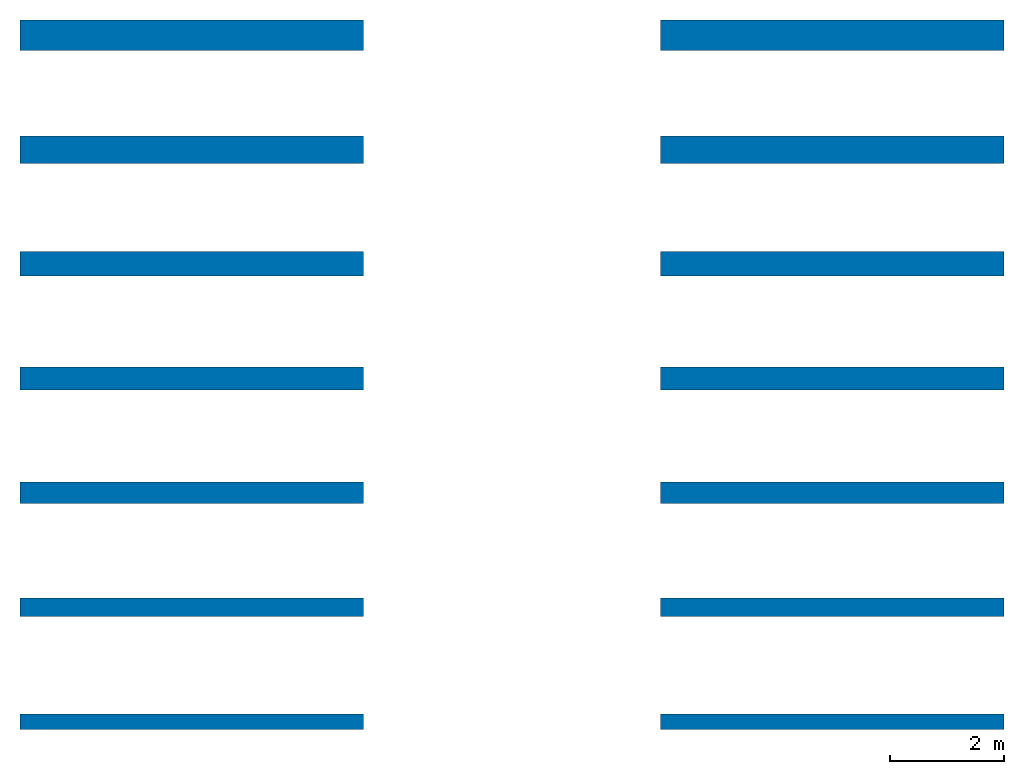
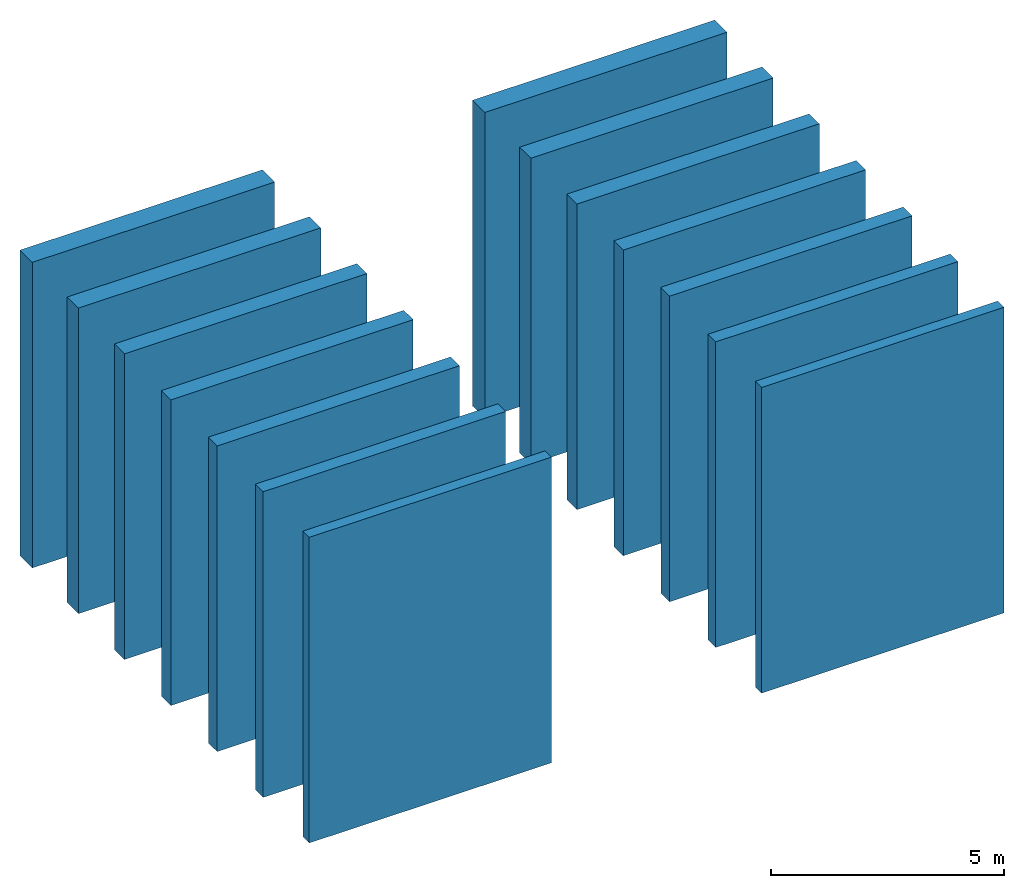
# One storey: 14 walls.
"""IFC2X3 building model written with IfcOpenShell, lengths in millimetres."""

import ifcopenshell
import ifcopenshell.guid

model = None  # the IFC model being written
_history = None  # IfcOwnerHistory: only IFC2X3 demands one
_inside = {}  # id of a spatial element -> (the spatial element, [elements in it])
_under = {}  # id of a project, library or spatial element -> (it, [spatial elements below it])
_declared = {}  # id of a project -> (the project, [libraries it declares])
_typed = {}  # id of a type object -> (the type object, [elements of that type])
_made_of = {}  # id of a material, layer set ... -> (it, [elements and type objects made of it])


def new_model(schema):
    """Start an empty IFC model of exactly this schema.

    Asked for "IFC4X3", IfcOpenShell would pick the latest addendum, in which some entities
    have other attributes; the version numbers below select the first issue.
    IFC2X3 requires an IfcOwnerHistory on every rooted entity: one is made here for all.
    """
    global model, _history
    if schema == "IFC4X3":
        model = ifcopenshell.file(schema_version=(4, 3, 0, 0))
    else:
        model = ifcopenshell.file(schema=schema)
    _inside.clear()
    _under.clear()
    _declared.clear()
    _typed.clear()
    _made_of.clear()
    _history = None
    if model.schema == "IFC2X3":
        org = make("IfcOrganization", Name="unknown")
        user = make(
            "IfcPersonAndOrganization",
            ThePerson=make("IfcPerson", FamilyName="unknown"),
            TheOrganization=org,
        )
        app = make(
            "IfcApplication",
            ApplicationDeveloper=org,
            Version="unknown",
            ApplicationFullName="unknown",
            ApplicationIdentifier="unknown",
        )
        _history = make(
            "IfcOwnerHistory",
            OwningUser=user,
            OwningApplication=app,
            ChangeAction="ADDED",
            CreationDate=0,
        )
    return model


def make(cls, **values):
    """One entity of the class cls with the attributes given. An attribute that is None is left unset."""
    return model.create_entity(
        cls, **{name: value for name, value in values.items() if value is not None}
    )


def entity(cls, *values):
    """Any entity or typed value of the class cls, its attributes in the order of the schema. None: left unset."""
    e = model.create_entity(cls)
    for i, value in enumerate(values):
        if value is not None:
            e[i] = value
    return e


def rooted(cls, **values):
    """An entity with a GlobalId (a new one), such as an element, a storey or a relation."""
    return make(cls, GlobalId=ifcopenshell.guid.new(), OwnerHistory=_history, **values)


def si_unit(unit_type, name, prefix=None):
    """IfcSIUnit, for example si_unit("LENGTHUNIT", "METRE", prefix="MILLI")."""
    return make("IfcSIUnit", UnitType=unit_type, Prefix=prefix, Name=name)


def converted_unit(unit_type, name, factor, base, dimensions=None, offset=None):
    """IfcConversionBasedUnit, such as the inch: factor (a typed value) times the base unit."""
    return make(
        "IfcConversionBasedUnit"
        if offset is None
        else "IfcConversionBasedUnitWithOffset",
        ConversionOffset=offset,
        Dimensions=None
        if dimensions is None
        else entity("IfcDimensionalExponents", *dimensions),
        UnitType=unit_type,
        Name=name,
        ConversionFactor=make(
            "IfcMeasureWithUnit", ValueComponent=factor, UnitComponent=base
        ),
    )


def derived_unit(unit_type, elements):
    """IfcDerivedUnit: a product of units, each with its exponent."""
    return make(
        "IfcDerivedUnit",
        Elements=[
            make("IfcDerivedUnitElement", Unit=unit, Exponent=power)
            for unit, power in elements
        ],
        UnitType=unit_type,
    )


def assignment(units):
    """IfcUnitAssignment: the units of a project."""
    return None if units is None else make("IfcUnitAssignment", Units=units)


def point(xyz):
    """IfcCartesianPoint."""
    return None if xyz is None else make("IfcCartesianPoint", Coordinates=xyz)


def direction(xyz):
    """IfcDirection."""
    return None if xyz is None else make("IfcDirection", DirectionRatios=xyz)


def frame(location, z_axis=None, x_axis=None):
    """IfcAxis2Placement3D, a coordinate frame: its origin and axes. An axis left out is left unset."""
    return make(
        "IfcAxis2Placement3D",
        Location=point(location),
        Axis=direction(z_axis),
        RefDirection=direction(x_axis),
    )


def frame_2d(location, x_axis=None):
    """IfcAxis2Placement2D, a coordinate frame in the plane: its origin and x axis."""
    return make(
        "IfcAxis2Placement2D", Location=point(location), RefDirection=direction(x_axis)
    )


def origin():
    """The frame at (0, 0, 0) with its axes left unset."""
    return frame((0.0, 0.0, 0.0))


def place(relative_to, where):
    """IfcLocalPlacement: puts the frame where relative to a parent placement (None: the world)."""
    return make(
        "IfcLocalPlacement", PlacementRelTo=relative_to, RelativePlacement=where
    )


def context(
    kind, dimensions, precision=None, world=None, true_north=None, identifier=None
):
    """IfcGeometricRepresentationContext, for example the 3D "Model" context."""
    return make(
        "IfcGeometricRepresentationContext",
        ContextIdentifier=identifier,
        ContextType=kind,
        CoordinateSpaceDimension=dimensions,
        Precision=precision,
        WorldCoordinateSystem=world,
        TrueNorth=true_north,
    )


def subcontext(parent, identifier, kind, view, scale=None):
    """IfcGeometricRepresentationSubContext, for example "Body" below "Model"."""
    return make(
        "IfcGeometricRepresentationSubContext",
        ContextIdentifier=identifier,
        ContextType=kind,
        ParentContext=parent,
        TargetScale=scale,
        TargetView=view,
    )


def project(units=None, contexts=None):
    """IfcProject with its units and contexts."""
    return rooted(
        "IfcProject",
        Name="project",
        RepresentationContexts=contexts,
        UnitsInContext=assignment(units),
    )


def spatial(cls, under=None, at=None, **own):
    """A site, building, storey or space (cls), placed at a placement, below another one or the project."""
    s = rooted(cls, ObjectPlacement=at, **own)
    if under is not None:
        _under.setdefault(under.id(), (under, []))[1].append(s)
    return s


def profile(cls, at=None, kind="AREA", **sizes):
    """A parametric profile (cls). Its sizes go by their IFC names, for example OverallWidth=200.0."""
    return make(cls, ProfileType=kind, Position=at, **sizes)


def rectangle(**sizes):
    """IfcRectangleProfileDef."""
    return profile("IfcRectangleProfileDef", **sizes)


def extrude(swept, where, along, depth):
    """IfcExtrudedAreaSolid: the profile swept, set in the frame where, extruded along a direction by depth."""
    return make(
        "IfcExtrudedAreaSolid",
        SweptArea=swept,
        Position=where,
        ExtrudedDirection=direction(along),
        Depth=depth,
    )


def shape(context_of_items, identifier, shape_type, items):
    """IfcShapeRepresentation: the items that make up one representation, for example the "Body"."""
    return make(
        "IfcShapeRepresentation",
        ContextOfItems=context_of_items,
        RepresentationIdentifier=identifier,
        RepresentationType=shape_type,
        Items=items,
    )


def material(Name=None, Category=None):
    """IfcMaterial."""
    return make("IfcMaterial", Name=Name, Category=Category)


def layer(
    of_material, thickness, ventilated=None, Name=None, Category=None, Priority=None
):
    """IfcMaterialLayer: one layer of a wall or slab, of a material (None: an air gap)."""
    return make(
        "IfcMaterialLayer",
        Material=of_material,
        LayerThickness=thickness,
        IsVentilated=ventilated,
        Name=Name,
        Category=Category,
        Priority=Priority,
    )


def layer_set(layers, Name=None):
    """IfcMaterialLayerSet."""
    return make("IfcMaterialLayerSet", MaterialLayers=layers, LayerSetName=Name)


def layer_usage(for_layer_set, set_direction, sense, offset, extent=None):
    """IfcMaterialLayerSetUsage: how a layer set lies in its element."""
    return make(
        "IfcMaterialLayerSetUsage",
        ForLayerSet=for_layer_set,
        LayerSetDirection=set_direction,
        DirectionSense=sense,
        OffsetFromReferenceLine=offset,
        ReferenceExtent=extent,
    )


def made_of(thing, what):
    """Note that an element or type object is made of a material, layer set ...; save() writes the relation."""
    if what is not None:
        _made_of.setdefault(what.id(), (what, []))[1].append(thing)
    return thing


def type_object(cls, material=None, **own):
    """A type object (cls), such as IfcWallType, which elements share."""
    return made_of(rooted(cls, **own), material)


def element(
    cls,
    number,
    at=None,
    inside=None,
    cuts=None,
    type_object=None,
    material=None,
    context=None,
    identifier="Body",
    shape_type=None,
    held_by="IfcProductDefinitionShape",
    body=None,
    shapes=None,
    **own,
):
    """One element of the class cls, such as IfcWall. Its Tag is "e" and its number.

    at: its placement. inside: the storey or other place that contains it. cuts: it is an
    opening in that element (IfcRelVoidsElement). A single representation is given by context,
    identifier, shape_type and body (its items); several are given by shapes. held_by: the class
    of the entity that holds the representations. save() writes the other relations.
    """
    e = rooted(cls, Tag="e%d" % number, ObjectPlacement=at, **own)
    if body is not None:
        shapes = [shape(context, identifier, shape_type, body)]
    if shapes is not None:
        e.Representation = make(held_by, Representations=shapes)
    if inside is not None:
        _inside.setdefault(inside.id(), (inside, []))[1].append(e)
    if cuts is not None:
        rooted(
            "IfcRelVoidsElement", RelatingBuildingElement=cuts, RelatedOpeningElement=e
        )
    if type_object is not None:
        _typed.setdefault(type_object.id(), (type_object, []))[1].append(e)
    return made_of(e, material)


def aggregate(whole, parts):
    """IfcRelAggregates: a whole, such as a stair, and the parts it consists of."""
    return rooted("IfcRelAggregates", RelatingObject=whole, RelatedObjects=parts)


def save(model, path):
    """Write the relations noted so far, then the file.

    IfcRelAggregates (storeys below a building ...), IfcRelContainedInSpatialStructure (elements
    in a storey), IfcRelDefinesByType, IfcRelAssociatesMaterial and IfcRelDeclares: one each for
    every whole, place, type object, material and project.
    """
    for whole, parts in _under.values():
        aggregate(whole, parts)
    for where, things in _inside.values():
        rooted(
            "IfcRelContainedInSpatialStructure",
            RelatedElements=things,
            RelatingStructure=where,
        )
    for kind, things in _typed.values():
        rooted("IfcRelDefinesByType", RelatedObjects=things, RelatingType=kind)
    for what, things in _made_of.values():
        rooted("IfcRelAssociatesMaterial", RelatedObjects=things, RelatingMaterial=what)
    for by, libraries in _declared.values():
        rooted("IfcRelDeclares", RelatingContext=by, RelatedDefinitions=libraries)
    model.write(path)


model = new_model("IFC2X3")

# Units and contexts
model_context = context("Model", 3, precision=0.01, world=origin(), true_north=direction((6.12303176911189e-17, 1.0)))
context_of_model = context(None, 3, precision=0.01, world=origin(), true_north=direction((6.12303176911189e-17, 1.0)))
body_context = subcontext(model_context, "Body", "Model", "MODEL_VIEW")
ifc_project = project(units=[si_unit("LENGTHUNIT", "METRE", prefix="MILLI"), si_unit("AREAUNIT", "SQUARE_METRE"), si_unit("VOLUMEUNIT", "CUBIC_METRE"), converted_unit("PLANEANGLEUNIT", "DEGREE", entity("IfcRatioMeasure", 0.0174532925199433), si_unit("PLANEANGLEUNIT", "RADIAN"), dimensions=[0, 0, 0, 0, 0, 0, 0]), si_unit("MASSUNIT", "GRAM", prefix="KILO"), si_unit("TIMEUNIT", "SECOND"), si_unit("FREQUENCYUNIT", "HERTZ"), si_unit("THERMODYNAMICTEMPERATUREUNIT", "DEGREE_CELSIUS"), derived_unit("THERMALTRANSMITTANCEUNIT", [(si_unit("MASSUNIT", "GRAM", prefix="KILO"), 1), (si_unit("THERMODYNAMICTEMPERATUREUNIT", "KELVIN"), -1), (si_unit("TIMEUNIT", "SECOND"), -3)]), derived_unit("VOLUMETRICFLOWRATEUNIT", [(si_unit("LENGTHUNIT", "METRE"), 3), (si_unit("TIMEUNIT", "SECOND"), -1)]), si_unit("ELECTRICCURRENTUNIT", "AMPERE"), si_unit("ELECTRICVOLTAGEUNIT", "VOLT"), si_unit("POWERUNIT", "WATT"), si_unit("FORCEUNIT", "NEWTON", prefix="KILO"), si_unit("ILLUMINANCEUNIT", "LUX"), si_unit("LUMINOUSFLUXUNIT", "LUMEN"), si_unit("LUMINOUSINTENSITYUNIT", "CANDELA"), si_unit("PRESSUREUNIT", "PASCAL")], contexts=[model_context, context_of_model])

# Site, building, storey
site_placement = place(None, origin())
site = spatial("IfcSite", under=ifc_project, at=site_placement, Name="Default", CompositionType="ELEMENT")
building_placement = place(site_placement, origin())
building = spatial("IfcBuilding", under=site, at=building_placement, CompositionType="ELEMENT")
storey_placement = place(building_placement, origin())
storey = spatial("IfcBuildingStorey", under=building, at=storey_placement, Name="Livello 1", CompositionType="ELEMENT", Elevation=0.0)

# Walls
ifc_material_1 = material(Name="tonachino colorato ai silicati/silossani di finitura")
ifc_layer_1 = layer(ifc_material_1, 2.0)
ifc_material_2 = material(Name="GASBETON Multiraso esterni")
ifc_layer_2 = layer(ifc_material_2, 5.0)
ifc_material_3 = material(Name="GASBETON Multicem")
ifc_layer_3 = layer(ifc_material_3, 15.0)
ifc_material_4 = material(Name="GASBETON Energy")
ifc_layer_4 = layer(ifc_material_4, 500.0)
ifc_material_5 = material(Name="GASBETON Incollarasa")
ifc_layer_5 = layer(ifc_material_5, 5.00000000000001)
ifc_material_6 = material(Name="GASBETON Multiraso interni")
ifc_layer_6 = layer(ifc_material_6, 2.00000000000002)
ifc_layer_set_1 = layer_set([ifc_layer_1, ifc_layer_2, ifc_layer_3, ifc_layer_4, ifc_layer_5, ifc_layer_6], Name="Muro di base:Sistema GASBETON Energy+ IDRO sp. 529 per tamponatura")
ifc_layer_usage_1 = layer_usage(ifc_layer_set_1, "AXIS2", "NEGATIVE", 264.5)
wall_type_1 = type_object("IfcWallType", Name="Muro di base:Sistema GASBETON Energy+ IDRO sp. 529 per tamponatura", PredefinedType="STANDARD", material=ifc_layer_set_1)
wall_1_placement = place(storey_placement, frame((-2530.39888114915, 8646.74124989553, 0.0), z_axis=(0.0, 0.0, 1.0), x_axis=(-1.0, 0.0, 0.0)))
element("IfcWallStandardCase", 1, at=wall_1_placement, inside=storey, type_object=wall_type_1, material=ifc_layer_usage_1, Name="Muro di base:Sistema GASBETON Energy+ IDRO sp. 529 per tamponatura", ObjectType="Muro di base:Sistema GASBETON Energy+ IDRO sp. 529 per tamponatura", context=body_context, shape_type="SweptSolid", body=[
    extrude(rectangle(XDim=6000.0, YDim=529.000000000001, at=frame_2d((3000.0, 0.0), x_axis=(-1.0, 0.0))), origin(), (0.0, 0.0, 1.0), 8000.0),
])
ifc_layer_usage_2 = layer_usage(ifc_layer_set_1, "AXIS2", "NEGATIVE", 264.5)
wall_2_placement = place(storey_placement, frame((8669.60111885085, 8646.74124989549, 0.0), z_axis=(0.0, 0.0, 1.0), x_axis=(-1.0, 0.0, 0.0)))
element("IfcWallStandardCase", 2, at=wall_2_placement, inside=storey, type_object=wall_type_1, material=ifc_layer_usage_2, Name="Muro di base:Sistema GASBETON Energy+ IDRO sp. 529 per tamponatura", ObjectType="Muro di base:Sistema GASBETON Energy+ IDRO sp. 529 per tamponatura", context=body_context, shape_type="SweptSolid", body=[
    extrude(rectangle(XDim=6000.0, YDim=529.000000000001, at=frame_2d((3000.0, 0.0), x_axis=(-1.0, 0.0))), origin(), (0.0, 0.0, 1.0), 8000.0),
])
ifc_layer_7 = layer(ifc_material_1, 2.0)
ifc_layer_8 = layer(ifc_material_2, 5.0)
ifc_layer_9 = layer(ifc_material_3, 15.0)
ifc_layer_10 = layer(ifc_material_4, 450.0)
ifc_layer_11 = layer(ifc_material_5, 5.00000000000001)
ifc_layer_12 = layer(ifc_material_6, 2.00000000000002)
ifc_layer_set_2 = layer_set([ifc_layer_7, ifc_layer_8, ifc_layer_9, ifc_layer_10, ifc_layer_11, ifc_layer_12], Name="Muro di base:Sistema GASBETON Energy sp. 479 per tamponatura")
ifc_layer_usage_3 = layer_usage(ifc_layer_set_2, "AXIS2", "NEGATIVE", 239.5)
wall_type_2 = type_object("IfcWallType", Name="Muro di base:Sistema GASBETON Energy sp. 479 per tamponatura", PredefinedType="STANDARD", material=ifc_layer_set_2)
wall_3_placement = place(storey_placement, frame((-2530.39888114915, 6646.74124989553, 0.0), z_axis=(0.0, 0.0, 1.0), x_axis=(-1.0, 0.0, 0.0)))
element("IfcWallStandardCase", 3, at=wall_3_placement, inside=storey, type_object=wall_type_2, material=ifc_layer_usage_3, Name="Muro di base:Sistema GASBETON Energy sp. 479 per tamponatura", ObjectType="Muro di base:Sistema GASBETON Energy sp. 479 per tamponatura", context=body_context, shape_type="SweptSolid", body=[
    extrude(rectangle(XDim=6000.0, YDim=478.999999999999, at=frame_2d((3000.0, 0.0), x_axis=(-1.0, 0.0))), origin(), (0.0, 0.0, 1.0), 8000.0),
])
ifc_layer_13 = layer(ifc_material_1, 2.0)
ifc_layer_14 = layer(ifc_material_2, 5.0)
ifc_layer_15 = layer(ifc_material_3, 15.0)
ifc_layer_16 = layer(ifc_material_4, 400.0)
ifc_layer_17 = layer(ifc_material_5, 5.00000000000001)
ifc_layer_18 = layer(ifc_material_6, 2.00000000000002)
ifc_layer_set_3 = layer_set([ifc_layer_13, ifc_layer_14, ifc_layer_15, ifc_layer_16, ifc_layer_17, ifc_layer_18], Name="Muro di base:Sistema GASBETON Energy sp. 429 per tamponatura")
ifc_layer_usage_4 = layer_usage(ifc_layer_set_3, "AXIS2", "NEGATIVE", 214.5)
wall_type_3 = type_object("IfcWallType", Name="Muro di base:Sistema GASBETON Energy sp. 429 per tamponatura", PredefinedType="STANDARD", material=ifc_layer_set_3)
wall_4_placement = place(storey_placement, frame((-2530.39888114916, 4646.74124989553, 0.0), z_axis=(0.0, 0.0, 1.0), x_axis=(-1.0, 0.0, 0.0)))
element("IfcWallStandardCase", 4, at=wall_4_placement, inside=storey, type_object=wall_type_3, material=ifc_layer_usage_4, Name="Muro di base:Sistema GASBETON Energy sp. 429 per tamponatura", ObjectType="Muro di base:Sistema GASBETON Energy sp. 429 per tamponatura", context=body_context, shape_type="SweptSolid", body=[
    extrude(rectangle(XDim=6000.0, YDim=429.0, at=frame_2d((3000.0, 0.0), x_axis=(-1.0, 0.0))), origin(), (0.0, 0.0, 1.0), 8000.0),
])
ifc_layer_19 = layer(ifc_material_1, 2.0)
ifc_layer_20 = layer(ifc_material_2, 5.0)
ifc_layer_21 = layer(ifc_material_3, 15.0)
ifc_layer_22 = layer(ifc_material_4, 375.0)
ifc_layer_23 = layer(ifc_material_5, 5.00000000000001)
ifc_layer_24 = layer(ifc_material_6, 2.00000000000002)
ifc_layer_set_4 = layer_set([ifc_layer_19, ifc_layer_20, ifc_layer_21, ifc_layer_22, ifc_layer_23, ifc_layer_24], Name="Muro di base:Sistema GASBETON Energy sp. 404 per tamponatura")
ifc_layer_usage_5 = layer_usage(ifc_layer_set_4, "AXIS2", "NEGATIVE", 202.0)
wall_type_4 = type_object("IfcWallType", Name="Muro di base:Sistema GASBETON Energy sp. 404 per tamponatura", PredefinedType="STANDARD", material=ifc_layer_set_4)
wall_5_placement = place(storey_placement, frame((-2530.39888114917, 2646.74124989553, 0.0), z_axis=(0.0, 0.0, 1.0), x_axis=(-1.0, 0.0, 0.0)))
element("IfcWallStandardCase", 5, at=wall_5_placement, inside=storey, type_object=wall_type_4, material=ifc_layer_usage_5, Name="Muro di base:Sistema GASBETON Energy sp. 404 per tamponatura", ObjectType="Muro di base:Sistema GASBETON Energy sp. 404 per tamponatura", context=body_context, shape_type="SweptSolid", body=[
    extrude(rectangle(XDim=6000.0, YDim=404.0, at=frame_2d((3000.0, 0.0), x_axis=(-1.0, 0.0))), origin(), (0.0, 0.0, 1.0), 8000.0),
])
ifc_layer_25 = layer(ifc_material_1, 2.0)
ifc_layer_26 = layer(ifc_material_2, 5.0)
ifc_layer_27 = layer(ifc_material_3, 15.0)
ifc_layer_28 = layer(ifc_material_4, 350.0)
ifc_layer_29 = layer(ifc_material_5, 5.00000000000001)
ifc_layer_30 = layer(ifc_material_6, 2.00000000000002)
ifc_layer_set_5 = layer_set([ifc_layer_25, ifc_layer_26, ifc_layer_27, ifc_layer_28, ifc_layer_29, ifc_layer_30], Name="Muro di base:Sistema GASBETON Energy sp. 379 per tamponatura")
ifc_layer_usage_6 = layer_usage(ifc_layer_set_5, "AXIS2", "NEGATIVE", 189.5)
wall_type_5 = type_object("IfcWallType", Name="Muro di base:Sistema GASBETON Energy sp. 379 per tamponatura", PredefinedType="STANDARD", material=ifc_layer_set_5)
wall_6_placement = place(storey_placement, frame((-2530.39888114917, 646.741249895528, 0.0), z_axis=(0.0, 0.0, 1.0), x_axis=(-1.0, 0.0, 0.0)))
element("IfcWallStandardCase", 6, at=wall_6_placement, inside=storey, type_object=wall_type_5, material=ifc_layer_usage_6, Name="Muro di base:Sistema GASBETON Energy sp. 379 per tamponatura", ObjectType="Muro di base:Sistema GASBETON Energy sp. 379 per tamponatura", context=body_context, shape_type="SweptSolid", body=[
    extrude(rectangle(XDim=6000.0, YDim=379.0, at=frame_2d((3000.0, 2.8421709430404e-14), x_axis=(-1.0, 0.0))), origin(), (0.0, 0.0, 1.0), 8000.0),
])
ifc_layer_31 = layer(ifc_material_1, 2.0)
ifc_layer_32 = layer(ifc_material_2, 5.0)
ifc_layer_33 = layer(ifc_material_3, 15.0)
ifc_layer_34 = layer(ifc_material_4, 300.0)
ifc_layer_35 = layer(ifc_material_5, 5.00000000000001)
ifc_layer_36 = layer(ifc_material_6, 2.00000000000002)
ifc_layer_set_6 = layer_set([ifc_layer_31, ifc_layer_32, ifc_layer_33, ifc_layer_34, ifc_layer_35, ifc_layer_36], Name="Muro di base:Sistema GASBETON Energy sp. 329 per tamponatura")
ifc_layer_usage_7 = layer_usage(ifc_layer_set_6, "AXIS2", "NEGATIVE", 164.5)
wall_type_6 = type_object("IfcWallType", Name="Muro di base:Sistema GASBETON Energy sp. 329 per tamponatura", PredefinedType="STANDARD", material=ifc_layer_set_6)
wall_7_placement = place(storey_placement, frame((-2530.39888114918, -1353.25875010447, 0.0), z_axis=(0.0, 0.0, 1.0), x_axis=(-1.0, 0.0, 0.0)))
element("IfcWallStandardCase", 7, at=wall_7_placement, inside=storey, type_object=wall_type_6, material=ifc_layer_usage_7, Name="Muro di base:Sistema GASBETON Energy sp. 329 per tamponatura", ObjectType="Muro di base:Sistema GASBETON Energy sp. 329 per tamponatura", context=body_context, shape_type="SweptSolid", body=[
    extrude(rectangle(XDim=6000.0, YDim=329.0, at=frame_2d((3000.0, 0.0), x_axis=(-1.0, 0.0))), origin(), (0.0, 0.0, 1.0), 8000.0),
])
ifc_layer_37 = layer(ifc_material_1, 2.0)
ifc_layer_38 = layer(ifc_material_2, 5.0)
ifc_layer_39 = layer(ifc_material_3, 15.0)
ifc_layer_40 = layer(ifc_material_4, 240.0)
ifc_layer_41 = layer(ifc_material_5, 5.00000000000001)
ifc_layer_42 = layer(ifc_material_6, 2.00000000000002)
ifc_layer_set_7 = layer_set([ifc_layer_37, ifc_layer_38, ifc_layer_39, ifc_layer_40, ifc_layer_41, ifc_layer_42], Name="Muro di base:Sistema GASBETON Energy sp. 269 per tamponatura")
ifc_layer_usage_8 = layer_usage(ifc_layer_set_7, "AXIS2", "NEGATIVE", 134.5)
wall_type_7 = type_object("IfcWallType", Name="Muro di base:Sistema GASBETON Energy sp. 269 per tamponatura", PredefinedType="STANDARD", material=ifc_layer_set_7)
wall_8_placement = place(storey_placement, frame((-2530.39888114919, -3353.25875010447, 0.0), z_axis=(0.0, 0.0, 1.0), x_axis=(-1.0, 0.0, 0.0)))
element("IfcWallStandardCase", 8, at=wall_8_placement, inside=storey, type_object=wall_type_7, material=ifc_layer_usage_8, Name="Muro di base:Sistema GASBETON Energy sp. 269 per tamponatura", ObjectType="Muro di base:Sistema GASBETON Energy sp. 269 per tamponatura", context=body_context, shape_type="SweptSolid", body=[
    extrude(rectangle(XDim=6000.0, YDim=268.999999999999, at=frame_2d((3000.0, 0.0), x_axis=(-1.0, 0.0))), origin(), (0.0, 0.0, 1.0), 8000.0),
])
ifc_layer_43 = layer(ifc_material_1, 2.0)
ifc_layer_44 = layer(ifc_material_2, 5.0)
ifc_layer_45 = layer(ifc_material_3, 15.0)
ifc_layer_46 = layer(ifc_material_4, 240.0)
ifc_layer_47 = layer(ifc_material_5, 5.00000000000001)
ifc_layer_48 = layer(ifc_material_6, 2.00000000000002)
ifc_layer_set_8 = layer_set([ifc_layer_43, ifc_layer_44, ifc_layer_45, ifc_layer_46, ifc_layer_47, ifc_layer_48], Name="Muro di base:Sistema GASBETON Energy+ IDRO sp. 269 per tamponatura")
ifc_layer_usage_9 = layer_usage(ifc_layer_set_8, "AXIS2", "NEGATIVE", 134.5)
wall_type_8 = type_object("IfcWallType", Name="Muro di base:Sistema GASBETON Energy+ IDRO sp. 269 per tamponatura", PredefinedType="STANDARD", material=ifc_layer_set_8)
wall_9_placement = place(storey_placement, frame((2669.60111885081, -3353.25875010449, 0.0)))
element("IfcWallStandardCase", 9, at=wall_9_placement, inside=storey, type_object=wall_type_8, material=ifc_layer_usage_9, Name="Muro di base:Sistema GASBETON Energy+ IDRO sp. 269 per tamponatura", ObjectType="Muro di base:Sistema GASBETON Energy+ IDRO sp. 269 per tamponatura", context=body_context, shape_type="SweptSolid", body=[
    extrude(rectangle(XDim=6000.0, YDim=268.999999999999, at=frame_2d((3000.0, 0.0), x_axis=(-1.0, 0.0))), origin(), (0.0, 0.0, 1.0), 8000.0),
])
ifc_layer_49 = layer(ifc_material_1, 2.0)
ifc_layer_50 = layer(ifc_material_2, 5.0)
ifc_layer_51 = layer(ifc_material_3, 15.0)
ifc_layer_52 = layer(ifc_material_4, 450.0)
ifc_layer_53 = layer(ifc_material_5, 5.00000000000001)
ifc_layer_54 = layer(ifc_material_6, 2.00000000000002)
ifc_layer_set_9 = layer_set([ifc_layer_49, ifc_layer_50, ifc_layer_51, ifc_layer_52, ifc_layer_53, ifc_layer_54], Name="Muro di base:Sistema GASBETON Energy+ IDRO sp. 479 per tamponatura")
ifc_layer_usage_10 = layer_usage(ifc_layer_set_9, "AXIS2", "NEGATIVE", 239.5)
wall_type_9 = type_object("IfcWallType", Name="Muro di base:Sistema GASBETON Energy+ IDRO sp. 479 per tamponatura", PredefinedType="STANDARD", material=ifc_layer_set_9)
wall_10_placement = place(storey_placement, frame((8669.60111885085, 6646.74124989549, 0.0), z_axis=(0.0, 0.0, 1.0), x_axis=(-1.0, 0.0, 0.0)))
element("IfcWallStandardCase", 10, at=wall_10_placement, inside=storey, type_object=wall_type_9, material=ifc_layer_usage_10, Name="Muro di base:Sistema GASBETON Energy+ IDRO sp. 479 per tamponatura", ObjectType="Muro di base:Sistema GASBETON Energy+ IDRO sp. 479 per tamponatura", context=body_context, shape_type="SweptSolid", body=[
    extrude(rectangle(XDim=6000.0, YDim=478.999999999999, at=frame_2d((3000.0, 0.0), x_axis=(-1.0, 0.0))), origin(), (0.0, 0.0, 1.0), 8000.0),
])
ifc_layer_55 = layer(ifc_material_1, 2.0)
ifc_layer_56 = layer(ifc_material_2, 5.0)
ifc_layer_57 = layer(ifc_material_3, 15.0)
ifc_layer_58 = layer(ifc_material_4, 400.0)
ifc_layer_59 = layer(ifc_material_5, 5.00000000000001)
ifc_layer_60 = layer(ifc_material_6, 2.00000000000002)
ifc_layer_set_10 = layer_set([ifc_layer_55, ifc_layer_56, ifc_layer_57, ifc_layer_58, ifc_layer_59, ifc_layer_60], Name="Muro di base:Sistema GASBETON Energy+ IDRO sp. 429 per tamponatura")
ifc_layer_usage_11 = layer_usage(ifc_layer_set_10, "AXIS2", "NEGATIVE", 214.5)
wall_type_10 = type_object("IfcWallType", Name="Muro di base:Sistema GASBETON Energy+ IDRO sp. 429 per tamponatura", PredefinedType="STANDARD", material=ifc_layer_set_10)
wall_11_placement = place(storey_placement, frame((8669.60111885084, 4646.74124989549, 0.0), z_axis=(0.0, 0.0, 1.0), x_axis=(-1.0, 0.0, 0.0)))
element("IfcWallStandardCase", 11, at=wall_11_placement, inside=storey, type_object=wall_type_10, material=ifc_layer_usage_11, Name="Muro di base:Sistema GASBETON Energy+ IDRO sp. 429 per tamponatura", ObjectType="Muro di base:Sistema GASBETON Energy+ IDRO sp. 429 per tamponatura", context=body_context, shape_type="SweptSolid", body=[
    extrude(rectangle(XDim=6000.0, YDim=429.0, at=frame_2d((3000.0, 0.0), x_axis=(-1.0, 0.0))), origin(), (0.0, 0.0, 1.0), 8000.0),
])
ifc_layer_61 = layer(ifc_material_1, 2.0)
ifc_layer_62 = layer(ifc_material_2, 5.0)
ifc_layer_63 = layer(ifc_material_3, 15.0)
ifc_layer_64 = layer(ifc_material_4, 375.0)
ifc_layer_65 = layer(ifc_material_5, 5.00000000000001)
ifc_layer_66 = layer(ifc_material_6, 2.00000000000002)
ifc_layer_set_11 = layer_set([ifc_layer_61, ifc_layer_62, ifc_layer_63, ifc_layer_64, ifc_layer_65, ifc_layer_66], Name="Muro di base:Sistema GASBETON Energy+ IDRO sp. 404 per tamponatura")
ifc_layer_usage_12 = layer_usage(ifc_layer_set_11, "AXIS2", "NEGATIVE", 202.0)
wall_type_11 = type_object("IfcWallType", Name="Muro di base:Sistema GASBETON Energy+ IDRO sp. 404 per tamponatura", PredefinedType="STANDARD", material=ifc_layer_set_11)
wall_12_placement = place(storey_placement, frame((8669.60111885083, 2646.74124989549, 0.0), z_axis=(0.0, 0.0, 1.0), x_axis=(-1.0, 0.0, 0.0)))
element("IfcWallStandardCase", 12, at=wall_12_placement, inside=storey, type_object=wall_type_11, material=ifc_layer_usage_12, Name="Muro di base:Sistema GASBETON Energy+ IDRO sp. 404 per tamponatura", ObjectType="Muro di base:Sistema GASBETON Energy+ IDRO sp. 404 per tamponatura", context=body_context, shape_type="SweptSolid", body=[
    extrude(rectangle(XDim=6000.0, YDim=404.0, at=frame_2d((3000.0, 0.0), x_axis=(-1.0, 0.0))), origin(), (0.0, 0.0, 1.0), 8000.0),
])
ifc_layer_67 = layer(ifc_material_1, 2.0)
ifc_layer_68 = layer(ifc_material_2, 5.0)
ifc_layer_69 = layer(ifc_material_3, 15.0)
ifc_layer_70 = layer(ifc_material_4, 350.0)
ifc_layer_71 = layer(ifc_material_5, 5.00000000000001)
ifc_layer_72 = layer(ifc_material_6, 2.00000000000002)
ifc_layer_set_12 = layer_set([ifc_layer_67, ifc_layer_68, ifc_layer_69, ifc_layer_70, ifc_layer_71, ifc_layer_72], Name="Muro di base:Sistema GASBETON Energy+ IDRO sp. 379 per tamponatura")
ifc_layer_usage_13 = layer_usage(ifc_layer_set_12, "AXIS2", "NEGATIVE", 189.5)
wall_type_12 = type_object("IfcWallType", Name="Muro di base:Sistema GASBETON Energy+ IDRO sp. 379 per tamponatura", PredefinedType="STANDARD", material=ifc_layer_set_12)
wall_13_placement = place(storey_placement, frame((8669.60111885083, 646.741249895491, 0.0), z_axis=(0.0, 0.0, 1.0), x_axis=(-1.0, 0.0, 0.0)))
element("IfcWallStandardCase", 13, at=wall_13_placement, inside=storey, type_object=wall_type_12, material=ifc_layer_usage_13, Name="Muro di base:Sistema GASBETON Energy+ IDRO sp. 379 per tamponatura", ObjectType="Muro di base:Sistema GASBETON Energy+ IDRO sp. 379 per tamponatura", context=body_context, shape_type="SweptSolid", body=[
    extrude(rectangle(XDim=6000.0, YDim=379.0, at=frame_2d((3000.0, 2.8421709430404e-14), x_axis=(-1.0, 0.0))), origin(), (0.0, 0.0, 1.0), 8000.0),
])
ifc_layer_73 = layer(ifc_material_1, 2.0)
ifc_layer_74 = layer(ifc_material_2, 5.0)
ifc_layer_75 = layer(ifc_material_3, 15.0)
ifc_layer_76 = layer(ifc_material_4, 300.0)
ifc_layer_77 = layer(ifc_material_5, 5.00000000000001)
ifc_layer_78 = layer(ifc_material_6, 2.00000000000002)
ifc_layer_set_13 = layer_set([ifc_layer_73, ifc_layer_74, ifc_layer_75, ifc_layer_76, ifc_layer_77, ifc_layer_78], Name="Muro di base:Sistema GASBETON Energy+ IDRO sp. 329 per tamponatura")
ifc_layer_usage_14 = layer_usage(ifc_layer_set_13, "AXIS2", "NEGATIVE", 164.5)
wall_type_13 = type_object("IfcWallType", Name="Muro di base:Sistema GASBETON Energy+ IDRO sp. 329 per tamponatura", PredefinedType="STANDARD", material=ifc_layer_set_13)
wall_14_placement = place(storey_placement, frame((8669.60111885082, -1353.25875010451, 0.0), z_axis=(0.0, 0.0, 1.0), x_axis=(-1.0, 0.0, 0.0)))
element("IfcWallStandardCase", 14, at=wall_14_placement, inside=storey, type_object=wall_type_13, material=ifc_layer_usage_14, Name="Muro di base:Sistema GASBETON Energy+ IDRO sp. 329 per tamponatura", ObjectType="Muro di base:Sistema GASBETON Energy+ IDRO sp. 329 per tamponatura", context=body_context, shape_type="SweptSolid", body=[
    extrude(rectangle(XDim=6000.0, YDim=329.0, at=frame_2d((3000.0, 0.0), x_axis=(-1.0, 0.0))), origin(), (0.0, 0.0, 1.0), 8000.0),
])

save(model, "model.ifc")
